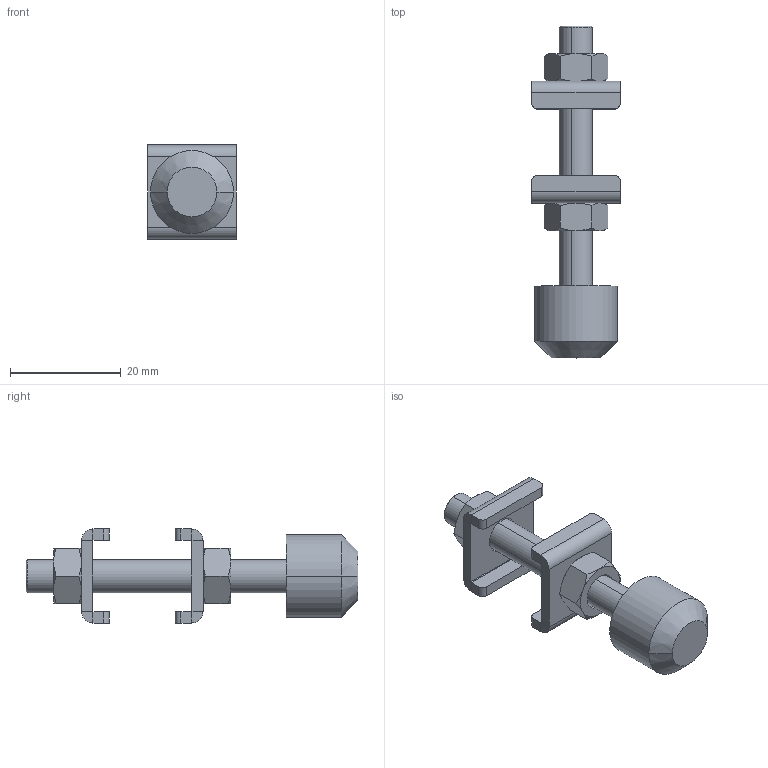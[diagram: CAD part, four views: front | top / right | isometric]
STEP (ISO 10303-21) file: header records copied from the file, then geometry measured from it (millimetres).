
FILE_DESCRIPTION (( 'STEP AP203' ), '1' );
FILE_NAME ('BRP-M6.STEP', '2011-05-23T16:37:04', ( 'Usuario' ), ( '' ), 'SwSTEP 2.0', 'SolidWorks 2011', '' );
FILE_SCHEMA (( 'CONFIG_CONTROL_DESIGN' ));
Length unit declared in the file: millimetre
Products named in the file (5): BRP-M6; 14.10004; 11.50001; 20.20013; 20.20009
Assembly tree (6 placements, depth 2):
  BRP-M6
    11.50001  x2
    14.10004  x2
    20.20009
    20.20013
Bounding box: 16 x 60 x 17 mm (x, y, z)
Volume: 5284.5 mm3; surface area: 4381.4 mm2
Topology: 6 solids, 6 shells, 126 faces, 270 edges, 155 vertices
Faces by surface type: plane 56, cone 40, cylinder 30
Entity records: 2547 total; most frequent: CARTESIAN_POINT 438, DIRECTION 346, ORIENTED_EDGE 300, EDGE_CURVE 150, AXIS2_PLACEMENT_3D 139, VERTEX_POINT 87, EDGE_LOOP 77, FACE_OUTER_BOUND 72
